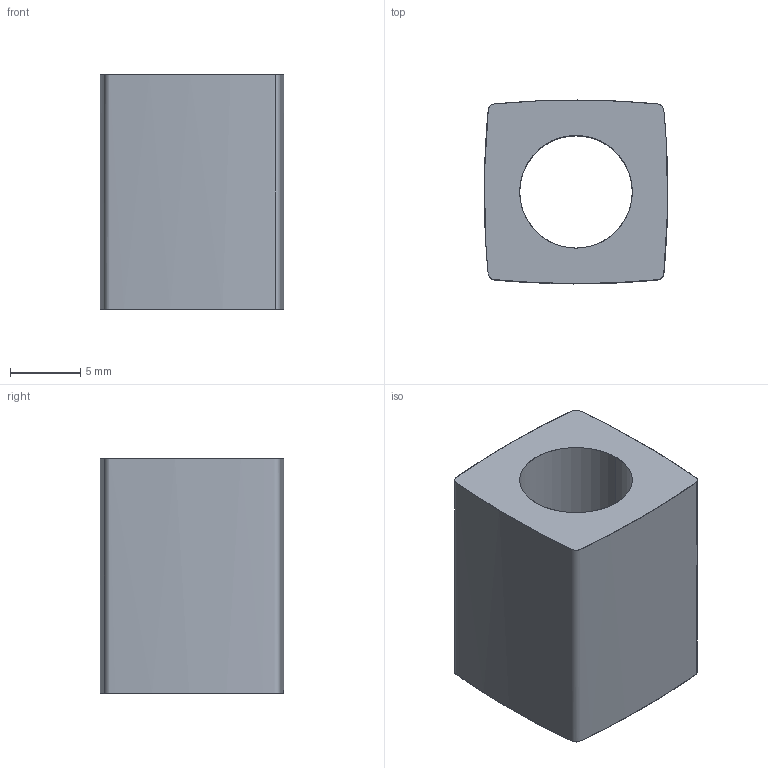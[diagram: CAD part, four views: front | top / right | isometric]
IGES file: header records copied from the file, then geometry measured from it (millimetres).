
Start section: SolidWorks IGES file using analytic representation for surfaces
Global section: file name: C:\Users\Kamkarian\Desktop\PowerFeed081417.IGS; native system: SolidWorks 2016; preprocessor: SolidWorks 2016; author: Kamkarian; date: 180617.023042; units: millimetre
Bounding box: 13.05 x 13.05 x 16.7 mm (x, y, z)
Surface area: 1469.7 mm2 (no closed solid volume)
Topology: 0 solids, 0 shells, 6 faces, 272 edges, 272 vertices
Faces by surface type: bspline 4, revolution 2
